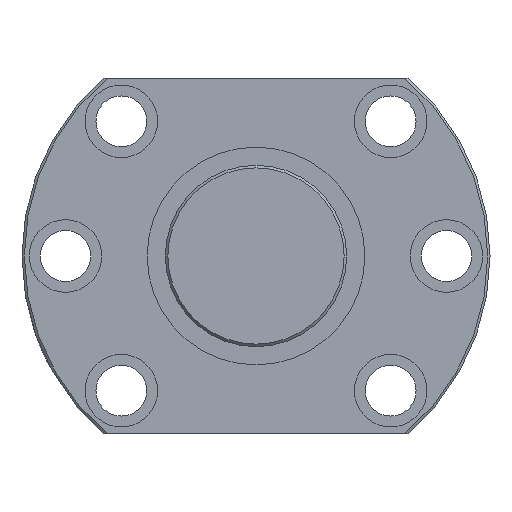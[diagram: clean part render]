
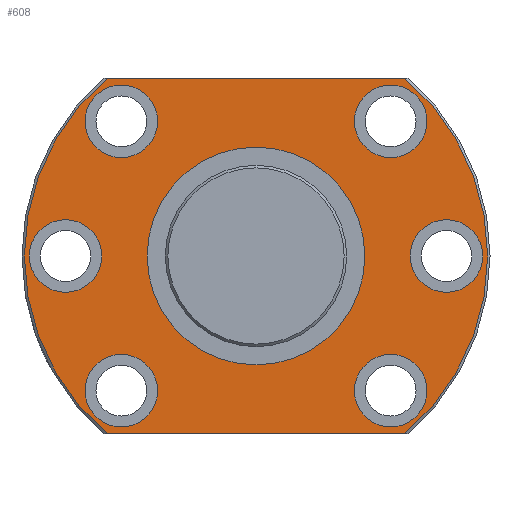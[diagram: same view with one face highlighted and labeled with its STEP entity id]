
A CAD part, left-side view. The second image highlights one B-rep face of the part: STEP entity #608.
In plain terms, the highlighted planar face has unit normal (-1, 0, 0).
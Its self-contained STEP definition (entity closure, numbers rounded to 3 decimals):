
#28=LINE('',#1006,#36);
#29=LINE('',#1011,#37);
#36=VECTOR('',#810,1000.);
#37=VECTOR('',#813,1000.);
#94=ORIENTED_EDGE('',*,*,#224,.T.);
#95=ORIENTED_EDGE('',*,*,#225,.T.);
#96=ORIENTED_EDGE('',*,*,#226,.T.);
#97=ORIENTED_EDGE('',*,*,#227,.T.);
#98=ORIENTED_EDGE('',*,*,#228,.T.);
#99=ORIENTED_EDGE('',*,*,#229,.T.);
#100=ORIENTED_EDGE('',*,*,#230,.T.);
#101=ORIENTED_EDGE('',*,*,#231,.F.);
#102=ORIENTED_EDGE('',*,*,#232,.T.);
#103=ORIENTED_EDGE('',*,*,#233,.F.);
#104=ORIENTED_EDGE('',*,*,#234,.T.);
#224=EDGE_CURVE('',#291,#291,#350,.T.);
#225=EDGE_CURVE('',#292,#292,#351,.T.);
#226=EDGE_CURVE('',#293,#293,#352,.T.);
#227=EDGE_CURVE('',#294,#294,#353,.T.);
#228=EDGE_CURVE('',#295,#295,#354,.T.);
#229=EDGE_CURVE('',#296,#296,#355,.T.);
#230=EDGE_CURVE('',#297,#297,#356,.T.);
#231=EDGE_CURVE('',#298,#299,#28,.T.);
#232=EDGE_CURVE('',#298,#300,#357,.F.);
#233=EDGE_CURVE('',#301,#300,#29,.T.);
#234=EDGE_CURVE('',#301,#299,#358,.F.);
#291=VERTEX_POINT('',#993);
#292=VERTEX_POINT('',#995);
#293=VERTEX_POINT('',#997);
#294=VERTEX_POINT('',#999);
#295=VERTEX_POINT('',#1001);
#296=VERTEX_POINT('',#1003);
#297=VERTEX_POINT('',#1005);
#298=VERTEX_POINT('',#1007);
#299=VERTEX_POINT('',#1008);
#300=VERTEX_POINT('',#1010);
#301=VERTEX_POINT('',#1012);
#350=CIRCLE('',#686,10.);
#351=CIRCLE('',#687,10.);
#352=CIRCLE('',#688,10.);
#353=CIRCLE('',#689,10.);
#354=CIRCLE('',#690,10.);
#355=CIRCLE('',#691,10.);
#356=CIRCLE('',#692,30.);
#357=CIRCLE('',#693,63.85);
#358=CIRCLE('',#694,63.85);
#403=EDGE_LOOP('',(#94));
#404=EDGE_LOOP('',(#95));
#405=EDGE_LOOP('',(#96));
#406=EDGE_LOOP('',(#97));
#407=EDGE_LOOP('',(#98));
#408=EDGE_LOOP('',(#99));
#409=EDGE_LOOP('',(#100));
#410=EDGE_LOOP('',(#101,#102,#103,#104));
#499=FACE_BOUND('',#403,.T.);
#500=FACE_BOUND('',#404,.T.);
#501=FACE_BOUND('',#405,.T.);
#502=FACE_BOUND('',#406,.T.);
#503=FACE_BOUND('',#407,.T.);
#504=FACE_BOUND('',#408,.T.);
#505=FACE_BOUND('',#409,.T.);
#506=FACE_BOUND('',#410,.T.);
#589=PLANE('',#685);
#608=ADVANCED_FACE('',(#499,#500,#501,#502,#503,#504,#505,#506),#589,.F.);
#685=AXIS2_PLACEMENT_3D('',#991,#794,#795);
#686=AXIS2_PLACEMENT_3D('',#992,#796,#797);
#687=AXIS2_PLACEMENT_3D('',#994,#798,#799);
#688=AXIS2_PLACEMENT_3D('',#996,#800,#801);
#689=AXIS2_PLACEMENT_3D('',#998,#802,#803);
#690=AXIS2_PLACEMENT_3D('',#1000,#804,#805);
#691=AXIS2_PLACEMENT_3D('',#1002,#806,#807);
#692=AXIS2_PLACEMENT_3D('',#1004,#808,#809);
#693=AXIS2_PLACEMENT_3D('',#1009,#811,#812);
#694=AXIS2_PLACEMENT_3D('',#1013,#814,#815);
#794=DIRECTION('',(1.,0.,0.));
#795=DIRECTION('',(0.,0.,-1.));
#796=DIRECTION('',(1.,0.,0.));
#797=DIRECTION('',(0.,0.,-1.));
#798=DIRECTION('',(1.,0.,0.));
#799=DIRECTION('',(0.,0.,-1.));
#800=DIRECTION('',(1.,0.,0.));
#801=DIRECTION('',(0.,0.,-1.));
#802=DIRECTION('',(1.,0.,0.));
#803=DIRECTION('',(0.,0.,-1.));
#804=DIRECTION('',(1.,0.,0.));
#805=DIRECTION('',(0.,0.,-1.));
#806=DIRECTION('',(1.,0.,0.));
#807=DIRECTION('',(0.,0.,-1.));
#808=DIRECTION('',(1.,0.,0.));
#809=DIRECTION('',(0.,0.,-1.));
#810=DIRECTION('',(0.,1.,0.));
#811=DIRECTION('',(1.,0.,0.));
#812=DIRECTION('',(0.,0.,-1.));
#813=DIRECTION('',(0.,-1.,0.));
#814=DIRECTION('',(1.,0.,0.));
#815=DIRECTION('',(0.,0.,-1.));
#991=CARTESIAN_POINT('',(0.,0.,0.));
#992=CARTESIAN_POINT('',(0.,37.123,-37.123));
#993=CARTESIAN_POINT('',(0.,37.123,-47.123));
#994=CARTESIAN_POINT('',(0.,-37.123,37.123));
#995=CARTESIAN_POINT('',(0.,-37.123,27.123));
#996=CARTESIAN_POINT('',(0.,37.123,37.123));
#997=CARTESIAN_POINT('',(0.,37.123,27.123));
#998=CARTESIAN_POINT('',(0.,-37.123,-37.123));
#999=CARTESIAN_POINT('',(0.,-37.123,-47.123));
#1000=CARTESIAN_POINT('',(0.,-52.5,0.));
#1001=CARTESIAN_POINT('',(0.,-52.5,-10.));
#1002=CARTESIAN_POINT('',(0.,52.5,0.));
#1003=CARTESIAN_POINT('',(0.,52.5,-10.));
#1004=CARTESIAN_POINT('',(0.,0.,0.));
#1005=CARTESIAN_POINT('',(0.,0.,-30.));
#1006=CARTESIAN_POINT('',(0.,-41.943,-49.));
#1007=CARTESIAN_POINT('',(0.,-40.937,-49.));
#1008=CARTESIAN_POINT('',(0.,40.937,-49.));
#1009=CARTESIAN_POINT('',(0.,0.,0.));
#1010=CARTESIAN_POINT('',(0.,-40.937,49.));
#1011=CARTESIAN_POINT('',(0.,41.943,49.));
#1012=CARTESIAN_POINT('',(0.,40.937,49.));
#1013=CARTESIAN_POINT('',(0.,0.,0.));
